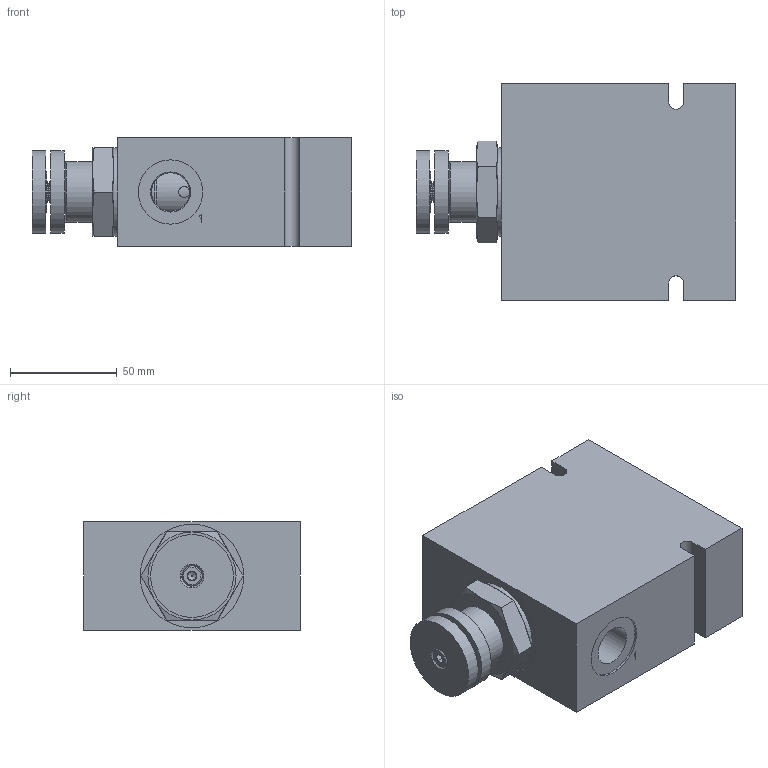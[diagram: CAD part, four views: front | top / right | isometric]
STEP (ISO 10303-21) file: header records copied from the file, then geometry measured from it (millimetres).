
FILE_DESCRIPTION( ( 'Unknown' ), '1' );
FILE_NAME( 'G:/Graphic Design/Graphic Design 2/Data Sheets/FLOW CONTROLS/2_STEP/Priority Flow Regulator Valves/D-SKFCQ0K-C3.stp', 'Unknown', ( 'Unknown' ), ( 'Unknown' ), 'PSStep 16.0.42', 'Unknown', ' ' );
FILE_SCHEMA( ( 'AUTOMOTIVE_DESIGN { 1 0 10303 214 1 1 1 1 }' ) );
Length unit declared in the file: millimetre
Products named in the file (12): SKFCQ0K; SKFCQ0K-3D Full1; SKFCQ0K-3D Full2; SKFCQ0K-3D Full3; SKFCQ0K-3D Full4; SKFCQ0K-3D Full5; SKFCQ0K-3D Full6; SKFCQ0K-3D Full7; SKFCQ0K-3D Full8; SKFCQ0K-3D Full9; Assem1; B-DSKC3
Assembly tree (11 placements, depth 3):
  Assem1
    B-DSKC3
    SKFCQ0K
      SKFCQ0K-3D Full1
      SKFCQ0K-3D Full2
      SKFCQ0K-3D Full3
      SKFCQ0K-3D Full4
      SKFCQ0K-3D Full5
      SKFCQ0K-3D Full6
      SKFCQ0K-3D Full7
      SKFCQ0K-3D Full8
      SKFCQ0K-3D Full9
Bounding box: 149.89 x 101.6 x 50.8 mm (x, y, z)
Surface area: 83255.9 mm2 (no closed solid volume)
Topology: 0 solids, 292 shells, 292 faces, 1163 edges, 1047 vertices
Faces by surface type: plane 140, cone 77, cylinder 69, torus 6
Full cylindrical faces by diameter (mm): 0.2 x3, 3.962 x1, 5.156 x8, 8.128 x1, 8.636 x1, 9.525 x2, 15 x1, 17.479 x2, 18 x1, 18.669 x1, 18.8 x6, 19.05 x2, 22.581 x1, 22.631 x1, 24.13 x1, 24.181 x1, 24.232 x2, 25 x1, 25.4 x1, 26.924 x2, 27 x1, 27.051 x1, 27.102 x1, 28.448 x1, 28.524 x2, 28.6 x3, 28.651 x1, 30.17 x3, 30.328 x1, 31.806 x2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
Entity records: 15530 total; most frequent: CARTESIAN_POINT 5044, DIRECTION 1570, VERTEX_POINT 1025, ORIENTED_EDGE 1022, EDGE_CURVE 1022, AXIS2_PLACEMENT_3D 661, FACE_BOUND 455, EDGE_LOOP 452
